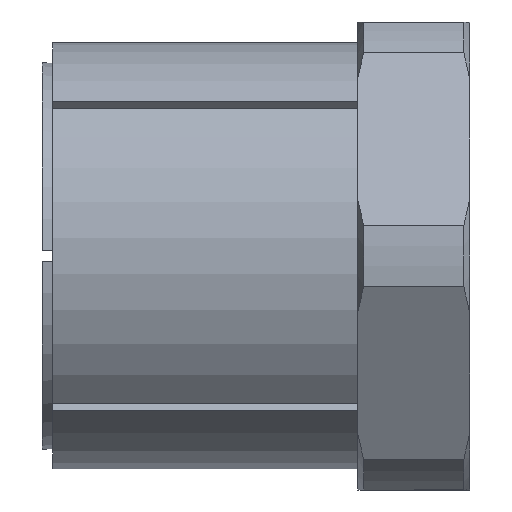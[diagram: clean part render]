
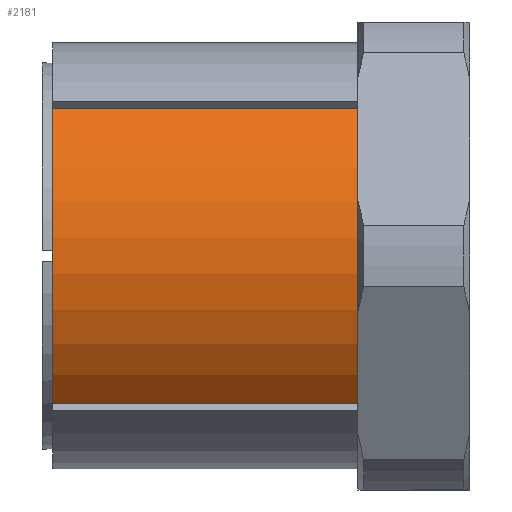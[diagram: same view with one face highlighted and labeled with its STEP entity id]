
A CAD part, front view. The second image highlights one B-rep face of the part: STEP entity #2181.
In plain terms, the highlighted cylindrical face has radius 21 mm (diameter 42 mm), a partial arc.
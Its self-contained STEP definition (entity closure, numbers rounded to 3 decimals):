
#5 = AXIS2_PLACEMENT_3D ( 'NONE', #2669, #2665, #2683 ) ;
#141 = AXIS2_PLACEMENT_3D ( 'NONE', #523, #521, #520 ) ;
#143 = AXIS2_PLACEMENT_3D ( 'NONE', #536, #530, #529 ) ;
#157 = EDGE_CURVE ( 'NONE', #573, #607, #1042, .T. ) ;
#160 = EDGE_CURVE ( 'NONE', #590, #623, #1036, .T. ) ;
#169 = EDGE_CURVE ( 'NONE', #607, #623, #1022, .T. ) ;
#170 = EDGE_CURVE ( 'NONE', #590, #573, #1020, .T. ) ;
#488 = DIRECTION ( 'NONE',  ( 1., 0., 0. ) ) ;
#489 = CARTESIAN_POINT ( 'NONE',  ( 0., -15.199, -14.491 ) ) ;
#492 = DIRECTION ( 'NONE',  ( -1., 0., 0. ) ) ;
#501 = CARTESIAN_POINT ( 'NONE',  ( 0., -15.199, 14.491 ) ) ;
#520 = DIRECTION ( 'NONE',  ( 0., 0., 1. ) ) ;
#521 = DIRECTION ( 'NONE',  ( -1., 0., 0. ) ) ;
#523 = CARTESIAN_POINT ( 'NONE',  ( 0., 0., 0. ) ) ;
#529 = DIRECTION ( 'NONE',  ( 0., 0., 1. ) ) ;
#530 = DIRECTION ( 'NONE',  ( -1., 0., 0. ) ) ;
#536 = CARTESIAN_POINT ( 'NONE',  ( 30., 0., 0. ) ) ;
#573 = VERTEX_POINT ( 'NONE', #1344 ) ;
#590 = VERTEX_POINT ( 'NONE', #1324 ) ;
#607 = VERTEX_POINT ( 'NONE', #1303 ) ;
#623 = VERTEX_POINT ( 'NONE', #1283 ) ;
#849 = CYLINDRICAL_SURFACE ( 'NONE', #5, 21. ) ;
#857 = FACE_OUTER_BOUND ( 'NONE', #1528, .T. ) ;
#1019 = VECTOR ( 'NONE', #488, 1000. ) ;
#1020 = LINE ( 'NONE', #489, #1019 ) ;
#1022 = LINE ( 'NONE', #501, #1026 ) ;
#1026 = VECTOR ( 'NONE', #492, 1000. ) ;
#1036 = CIRCLE ( 'NONE', #141, 21. ) ;
#1042 = CIRCLE ( 'NONE', #143, 21. ) ;
#1283 = CARTESIAN_POINT ( 'NONE',  ( 0., -15.199, 14.491 ) ) ;
#1303 = CARTESIAN_POINT ( 'NONE',  ( 30., -15.199, 14.491 ) ) ;
#1324 = CARTESIAN_POINT ( 'NONE',  ( 0., -15.199, -14.491 ) ) ;
#1344 = CARTESIAN_POINT ( 'NONE',  ( 30., -15.199, -14.491 ) ) ;
#1528 = EDGE_LOOP ( 'NONE', ( #1547, #1548, #1549, #1550 ) ) ;
#1547 = ORIENTED_EDGE ( 'NONE', *, *, #157, .T. ) ;
#1548 = ORIENTED_EDGE ( 'NONE', *, *, #169, .T. ) ;
#1549 = ORIENTED_EDGE ( 'NONE', *, *, #160, .F. ) ;
#1550 = ORIENTED_EDGE ( 'NONE', *, *, #170, .T. ) ;
#2181 = ADVANCED_FACE ( 'NONE', ( #857 ), #849, .T. ) ;
#2665 = DIRECTION ( 'NONE',  ( -1., 0., 0. ) ) ;
#2669 = CARTESIAN_POINT ( 'NONE',  ( 0., 0., 0. ) ) ;
#2683 = DIRECTION ( 'NONE',  ( 0., 0., 1. ) ) ;
